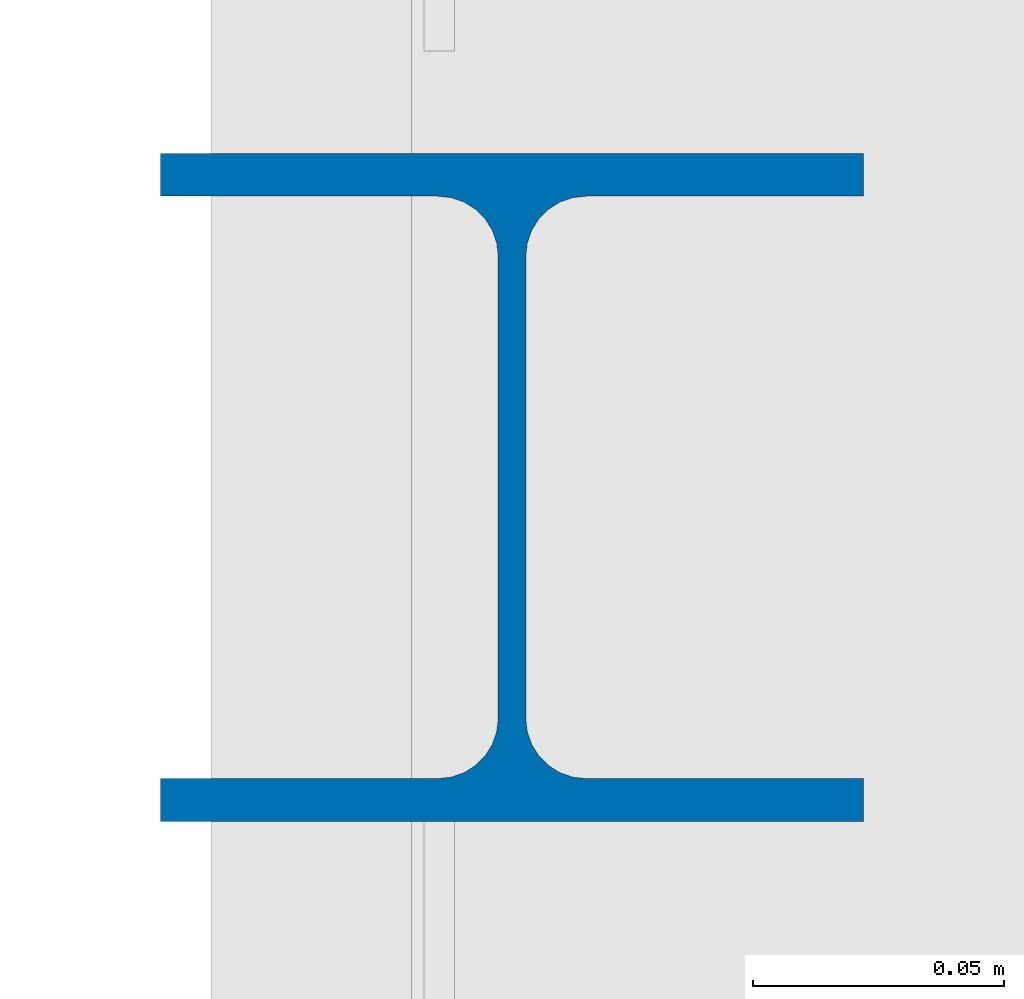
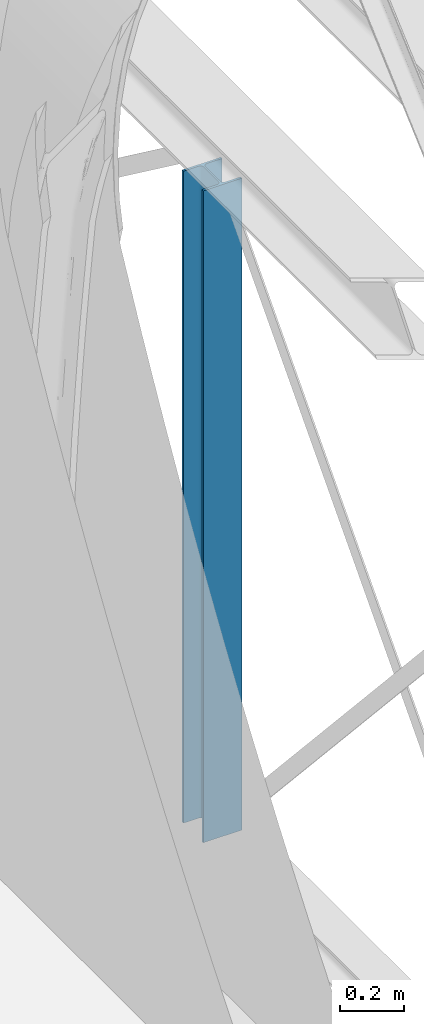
# One storey, part 1 of 38: 1 column.
"""IFC2X3 building model written with IfcOpenShell, lengths in millimetres."""

from ifc_helpers import new_model, entity, si_unit, converted_unit, derived_unit, direction, frame, frame_2d, origin, place, context, subcontext, project, spatial, i_section, extrude, source, transform, mapped, material, type_object, type_shapes, element, save


model = new_model("IFC2X3")

# Units and contexts
model_context = context("Model", 3, precision=0.01, world=origin(), true_north=direction((6.12303176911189e-17, 1.0)))
body_context = subcontext(model_context, "Body", "Model", "MODEL_VIEW")
ifc_project = project(units=[si_unit("LENGTHUNIT", "METRE", prefix="MILLI"), si_unit("AREAUNIT", "SQUARE_METRE", prefix="MILLI"), si_unit("VOLUMEUNIT", "CUBIC_METRE"), converted_unit("PLANEANGLEUNIT", "DEGREE", entity("IfcRatioMeasure", 0.0174532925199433), si_unit("PLANEANGLEUNIT", "RADIAN"), dimensions=[0, 0, 0, 0, 0, 0, 0]), si_unit("MASSUNIT", "GRAM", prefix="KILO"), derived_unit("MASSDENSITYUNIT", [(si_unit("MASSUNIT", "GRAM", prefix="KILO"), 1), (si_unit("LENGTHUNIT", "METRE"), -3)]), derived_unit("MOMENTOFINERTIAUNIT", [(si_unit("LENGTHUNIT", "METRE"), 4)]), si_unit("TIMEUNIT", "SECOND"), si_unit("FREQUENCYUNIT", "HERTZ"), si_unit("THERMODYNAMICTEMPERATUREUNIT", "DEGREE_CELSIUS"), derived_unit("THERMALTRANSMITTANCEUNIT", [(si_unit("MASSUNIT", "GRAM", prefix="KILO"), 1), (si_unit("THERMODYNAMICTEMPERATUREUNIT", "KELVIN"), -1), (si_unit("TIMEUNIT", "SECOND"), -3)]), derived_unit("VOLUMETRICFLOWRATEUNIT", [(si_unit("LENGTHUNIT", "METRE"), 3), (si_unit("TIMEUNIT", "SECOND"), -1)]), si_unit("ELECTRICCURRENTUNIT", "AMPERE"), si_unit("ELECTRICVOLTAGEUNIT", "VOLT"), si_unit("POWERUNIT", "WATT"), si_unit("FORCEUNIT", "NEWTON", prefix="KILO"), si_unit("ILLUMINANCEUNIT", "LUX"), si_unit("LUMINOUSFLUXUNIT", "LUMEN"), si_unit("LUMINOUSINTENSITYUNIT", "CANDELA"), derived_unit("USERDEFINED", [(si_unit("MASSUNIT", "GRAM", prefix="KILO"), -1), (si_unit("LENGTHUNIT", "METRE"), -2), (si_unit("TIMEUNIT", "SECOND"), 3), (si_unit("LUMINOUSFLUXUNIT", "LUMEN"), 1)]), derived_unit("LINEARVELOCITYUNIT", [(si_unit("LENGTHUNIT", "METRE"), 1), (si_unit("TIMEUNIT", "SECOND"), -1)]), si_unit("PRESSUREUNIT", "PASCAL"), derived_unit("USERDEFINED", [(si_unit("LENGTHUNIT", "METRE"), -2), (si_unit("MASSUNIT", "GRAM", prefix="KILO"), 1), (si_unit("TIMEUNIT", "SECOND"), -2)]), derived_unit("LINEARFORCEUNIT", [(si_unit("MASSUNIT", "GRAM", prefix="KILO"), 1), (si_unit("LENGTHUNIT", "METRE"), 1), (si_unit("TIMEUNIT", "SECOND"), -2), (si_unit("LENGTHUNIT", "METRE"), -1)]), derived_unit("PLANARFORCEUNIT", [(si_unit("MASSUNIT", "GRAM", prefix="KILO"), 1), (si_unit("LENGTHUNIT", "METRE"), 1), (si_unit("TIMEUNIT", "SECOND"), -2), (si_unit("LENGTHUNIT", "METRE"), -2)])], contexts=[model_context])

# Site, building, storey
site_placement = place(None, origin())
site = spatial("IfcSite", under=ifc_project, at=site_placement, Name="Theater aan de Parade", CompositionType="ELEMENT")
building_placement = place(site_placement, origin())
building = spatial("IfcBuilding", under=site, at=building_placement, Name="Theater aan de Parade", CompositionType="ELEMENT")
storey_placement = place(building_placement, frame((0.0, 0.0, 12480.0)))
storey = spatial("IfcBuildingStorey", under=building, at=storey_placement, Name="03 derde verdieping", CompositionType="ELEMENT", Elevation=12480.0)

# Column
ifc_material = material(Name="00_PBT_MAT_staal_S355")
column_type = type_object("IfcColumnType", Name="28_PBT_SC_staal_H-profiel:S355_HE140A", PredefinedType="COLUMN", material=ifc_material)
shared_shape = source(origin(), body_context, "Body", "SweptSolid", [
    extrude(i_section(OverallWidth=140.000000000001, OverallDepth=132.999999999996, WebThickness=5.50000000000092, FlangeThickness=8.49999999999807, FilletRadius=12.0000000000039, at=frame_2d((-6.49436060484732e-12, 5.41433564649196e-12), x_axis=(0.0, 1.0))), frame((16003.8570032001, 25963.2922985, 11700.0), z_axis=(0.0, 0.0, 1.0), x_axis=(0.0, -1.0, 0.0)), (0.0, 0.0, 1.0), 2500.0),
])
type_shapes(column_type, [shared_shape])
column_placement = place(storey_placement, frame((0.0, 0.0, -12480.0)))
element("IfcColumn", 1, at=column_placement, inside=storey, type_object=column_type, material=ifc_material, Name="28_PBT_SC_staal_H-profiel:S355_HE140A", ObjectType="28_PBT_SC_staal_H-profiel:S355_HE140A", context=body_context, shape_type="MappedRepresentation", body=[
    mapped(shared_shape, transform((0.0, 0.0, 0.0), scale=1.0)),
])

save(model, "model.ifc")
